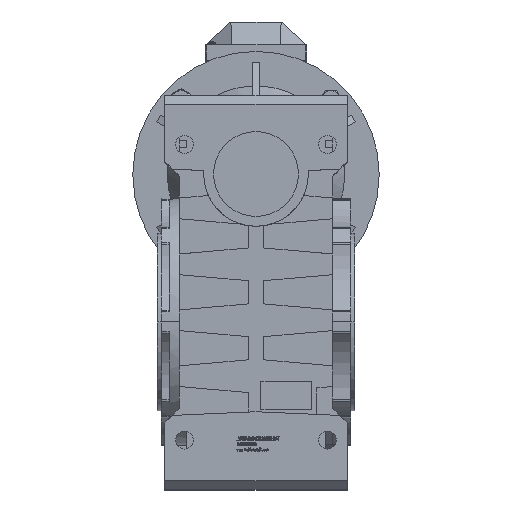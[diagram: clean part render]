
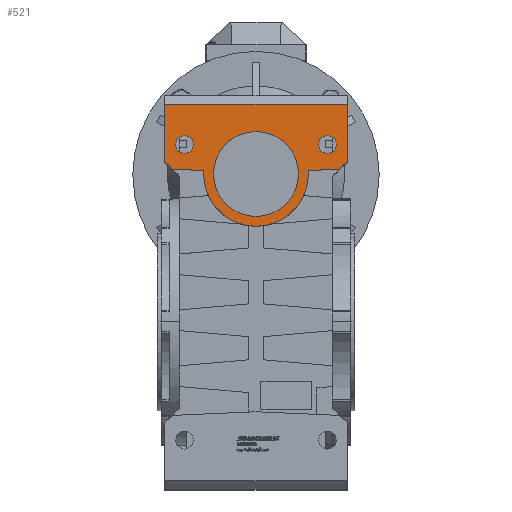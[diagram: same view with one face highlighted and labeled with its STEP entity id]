
A CAD part, top view. The second image highlights one B-rep face of the part: STEP entity #521.
In plain terms, the highlighted planar face has unit normal (0, 0, 1).
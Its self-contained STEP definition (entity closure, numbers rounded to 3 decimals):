
#521 = ADVANCED_FACE ( 'NONE', ( #59505, #26031, #42722, #83949 ), #50975, .F. ) ;
#1064 = EDGE_CURVE ( 'NONE', #92664, #33952, #99278, .T. ) ;
#1499 = AXIS2_PLACEMENT_3D ( 'NONE', #37712, #30501, #104569 ) ;
#1544 = EDGE_CURVE ( 'NONE', #99596, #20469, #72344, .T. ) ;
#2615 = CARTESIAN_POINT ( 'NONE',  ( -92.5, 221., 170. ) ) ;
#2667 = EDGE_CURVE ( 'NONE', #54644, #99596, #19347, .T. ) ;
#2876 = CARTESIAN_POINT ( 'NONE',  ( -92.5, 155.239, 170. ) ) ;
#3171 = VECTOR ( 'NONE', #86182, 1000. ) ;
#3913 = CARTESIAN_POINT ( 'NONE',  ( 84.762, 154.901, 170. ) ) ;
#11376 = CIRCLE ( 'NONE', #23633, 53.025 ) ;
#12421 = DIRECTION ( 'NONE',  ( 0., 0., 1. ) ) ;
#12766 = EDGE_LOOP ( 'NONE', ( #77522, #99753 ) ) ;
#12777 = DIRECTION ( 'NONE',  ( 1., 0., 0. ) ) ;
#14540 = DIRECTION ( 'NONE',  ( -0.999, -0.044, 0. ) ) ;
#14883 = CARTESIAN_POINT ( 'NONE',  ( 63.5, 180., 170. ) ) ;
#15360 = CARTESIAN_POINT ( 'NONE',  ( 53.025, 150., 170. ) ) ;
#17276 = ORIENTED_EDGE ( 'NONE', *, *, #103031, .F. ) ;
#17624 = LINE ( 'NONE', #91616, #84532 ) ;
#18011 = ORIENTED_EDGE ( 'NONE', *, *, #90529, .F. ) ;
#18642 = DIRECTION ( 'NONE',  ( 0., 0., -1. ) ) ;
#18690 = LINE ( 'NONE', #2876, #101008 ) ;
#18713 = DIRECTION ( 'NONE',  ( 1., 0., 0. ) ) ;
#19347 = CIRCLE ( 'NONE', #85736, 53.025 ) ;
#20469 = VERTEX_POINT ( 'NONE', #15360 ) ;
#22097 = EDGE_CURVE ( 'NONE', #98896, #50808, #86953, .T. ) ;
#23612 = CARTESIAN_POINT ( 'NONE',  ( -92.5, 230., 170. ) ) ;
#23625 = LINE ( 'NONE', #80121, #49404 ) ;
#23633 = AXIS2_PLACEMENT_3D ( 'NONE', #86211, #12421, #12777 ) ;
#24924 = ORIENTED_EDGE ( 'NONE', *, *, #1544, .T. ) ;
#25592 = ORIENTED_EDGE ( 'NONE', *, *, #73967, .T. ) ;
#25616 = DIRECTION ( 'NONE',  ( 0., 0., 1. ) ) ;
#25968 = DIRECTION ( 'NONE',  ( 1., 0., 0. ) ) ;
#26031 = FACE_OUTER_BOUND ( 'NONE', #83684, .T. ) ;
#26360 = ORIENTED_EDGE ( 'NONE', *, *, #102888, .F. ) ;
#27190 = VERTEX_POINT ( 'NONE', #60783 ) ;
#30501 = DIRECTION ( 'NONE',  ( 0., 0., 1. ) ) ;
#33304 = CARTESIAN_POINT ( 'NONE',  ( 92.5, 221., 170. ) ) ;
#33864 = AXIS2_PLACEMENT_3D ( 'NONE', #51109, #25616, #25968 ) ;
#33952 = VERTEX_POINT ( 'NONE', #94642 ) ;
#34676 = CARTESIAN_POINT ( 'NONE',  ( 92.5, 162.639, 170. ) ) ;
#35708 = AXIS2_PLACEMENT_3D ( 'NONE', #37059, #102855, #53942 ) ;
#36173 = DIRECTION ( 'NONE',  ( 1., 0., 0. ) ) ;
#37059 = CARTESIAN_POINT ( 'NONE',  ( 72.5, 180., 170. ) ) ;
#37475 = AXIS2_PLACEMENT_3D ( 'NONE', #98230, #73130, #48961 ) ;
#37712 = CARTESIAN_POINT ( 'NONE',  ( -72.5, 180., 170. ) ) ;
#38728 = VERTEX_POINT ( 'NONE', #14883 ) ;
#39341 = CARTESIAN_POINT ( 'NONE',  ( -92.5, 162.639, 170. ) ) ;
#39810 = CARTESIAN_POINT ( 'NONE',  ( 92.5, 162.639, 170. ) ) ;
#40127 = DIRECTION ( 'NONE',  ( 0., -1., 0. ) ) ;
#40257 = DIRECTION ( 'NONE',  ( 0., 0., 1. ) ) ;
#40541 = LINE ( 'NONE', #45832, #3171 ) ;
#42722 = FACE_BOUND ( 'NONE', #95761, .T. ) ;
#44088 = CARTESIAN_POINT ( 'NONE',  ( 72.5, 180., 170. ) ) ;
#44118 = ORIENTED_EDGE ( 'NONE', *, *, #71112, .F. ) ;
#45261 = ORIENTED_EDGE ( 'NONE', *, *, #95794, .T. ) ;
#45588 = CIRCLE ( 'NONE', #35708, 9. ) ;
#45706 = CARTESIAN_POINT ( 'NONE',  ( -84.762, 154.901, 170. ) ) ;
#45832 = CARTESIAN_POINT ( 'NONE',  ( -92.5, 162.639, 170. ) ) ;
#46464 = EDGE_CURVE ( 'NONE', #58409, #27190, #106174, .T. ) ;
#48166 = DIRECTION ( 'NONE',  ( 1., 0., 0. ) ) ;
#48961 = DIRECTION ( 'NONE',  ( 1., 0., 0. ) ) ;
#49404 = VECTOR ( 'NONE', #63161, 1000. ) ;
#49793 = EDGE_CURVE ( 'NONE', #52593, #79389, #103343, .T. ) ;
#50290 = DIRECTION ( 'NONE',  ( 0., 1., 0. ) ) ;
#50808 = VERTEX_POINT ( 'NONE', #39341 ) ;
#50975 = PLANE ( 'NONE',  #57370 ) ;
#51109 = CARTESIAN_POINT ( 'NONE',  ( 0., 150., 170. ) ) ;
#51568 = DIRECTION ( 'NONE',  ( -0.707, -0.707, 0. ) ) ;
#52358 = DIRECTION ( 'NONE',  ( 0., 0., 1. ) ) ;
#52593 = VERTEX_POINT ( 'NONE', #39810 ) ;
#53942 = DIRECTION ( 'NONE',  ( 1., 0., 0. ) ) ;
#54319 = AXIS2_PLACEMENT_3D ( 'NONE', #99532, #98120, #58237 ) ;
#54644 = VERTEX_POINT ( 'NONE', #106105 ) ;
#55760 = CARTESIAN_POINT ( 'NONE',  ( 0., 150., 170. ) ) ;
#56615 = CARTESIAN_POINT ( 'NONE',  ( 52.909, 153.51, 170. ) ) ;
#57370 = AXIS2_PLACEMENT_3D ( 'NONE', #67933, #18642, #50290 ) ;
#58237 = DIRECTION ( 'NONE',  ( 1., 0., 0. ) ) ;
#58409 = VERTEX_POINT ( 'NONE', #106113 ) ;
#58539 = CIRCLE ( 'NONE', #54319, 9. ) ;
#59505 = FACE_BOUND ( 'NONE', #12766, .T. ) ;
#60435 = CARTESIAN_POINT ( 'NONE',  ( 0., 150., 170. ) ) ;
#60751 = ORIENTED_EDGE ( 'NONE', *, *, #75056, .F. ) ;
#60783 = CARTESIAN_POINT ( 'NONE',  ( -63.5, 180., 170. ) ) ;
#62251 = AXIS2_PLACEMENT_3D ( 'NONE', #55760, #40257, #48166 ) ;
#63161 = DIRECTION ( 'NONE',  ( 0., -1., 0. ) ) ;
#66047 = EDGE_CURVE ( 'NONE', #79389, #101785, #97625, .T. ) ;
#66792 = DIRECTION ( 'NONE',  ( -1., 0., 0. ) ) ;
#66847 = ORIENTED_EDGE ( 'NONE', *, *, #66047, .F. ) ;
#67933 = CARTESIAN_POINT ( 'NONE',  ( 92.5, 230., 170. ) ) ;
#68515 = ORIENTED_EDGE ( 'NONE', *, *, #2667, .T. ) ;
#68752 = DIRECTION ( 'NONE',  ( 0., 0., 1. ) ) ;
#69067 = CARTESIAN_POINT ( 'NONE',  ( 92.5, 155.239, 170. ) ) ;
#69956 = VECTOR ( 'NONE', #51568, 1000. ) ;
#71112 = EDGE_CURVE ( 'NONE', #85424, #38728, #72094, .T. ) ;
#71390 = ORIENTED_EDGE ( 'NONE', *, *, #22097, .T. ) ;
#72094 = CIRCLE ( 'NONE', #87779, 9. ) ;
#72344 = CIRCLE ( 'NONE', #62251, 53.025 ) ;
#73130 = DIRECTION ( 'NONE',  ( 0., 0., 1. ) ) ;
#73967 = EDGE_CURVE ( 'NONE', #100743, #98896, #17624, .T. ) ;
#74117 = ORIENTED_EDGE ( 'NONE', *, *, #46464, .F. ) ;
#75056 = EDGE_CURVE ( 'NONE', #102089, #50808, #40541, .T. ) ;
#75828 = VECTOR ( 'NONE', #14540, 1000. ) ;
#77522 = ORIENTED_EDGE ( 'NONE', *, *, #83091, .F. ) ;
#79389 = VERTEX_POINT ( 'NONE', #3913 ) ;
#80121 = CARTESIAN_POINT ( 'NONE',  ( 92.5, 230., 170. ) ) ;
#83091 = EDGE_CURVE ( 'NONE', #33952, #92664, #88759, .T. ) ;
#83684 = EDGE_LOOP ( 'NONE', ( #68515, #24924, #45261, #66847, #97990, #18011, #25592, #71390, #60751, #85111 ) ) ;
#83949 = FACE_BOUND ( 'NONE', #92928, .T. ) ;
#84532 = VECTOR ( 'NONE', #66792, 1000. ) ;
#85111 = ORIENTED_EDGE ( 'NONE', *, *, #94375, .F. ) ;
#85424 = VERTEX_POINT ( 'NONE', #89194 ) ;
#85736 = AXIS2_PLACEMENT_3D ( 'NONE', #60435, #68752, #18713 ) ;
#86182 = DIRECTION ( 'NONE',  ( -0.707, 0.707, 0. ) ) ;
#86211 = CARTESIAN_POINT ( 'NONE',  ( 0., 150., 170. ) ) ;
#86953 = LINE ( 'NONE', #23612, #99800 ) ;
#87779 = AXIS2_PLACEMENT_3D ( 'NONE', #44088, #52358, #36173 ) ;
#88759 = CIRCLE ( 'NONE', #37475, 43.025 ) ;
#89194 = CARTESIAN_POINT ( 'NONE',  ( 81.5, 180., 170. ) ) ;
#90529 = EDGE_CURVE ( 'NONE', #100743, #52593, #23625, .T. ) ;
#91616 = CARTESIAN_POINT ( 'NONE',  ( 92.5, 221., 170. ) ) ;
#92664 = VERTEX_POINT ( 'NONE', #95973 ) ;
#92928 = EDGE_LOOP ( 'NONE', ( #26360, #44118 ) ) ;
#94375 = EDGE_CURVE ( 'NONE', #54644, #102089, #18690, .T. ) ;
#94642 = CARTESIAN_POINT ( 'NONE',  ( 43.025, 150., 170. ) ) ;
#95761 = EDGE_LOOP ( 'NONE', ( #74117, #17276 ) ) ;
#95794 = EDGE_CURVE ( 'NONE', #20469, #101785, #11376, .T. ) ;
#95973 = CARTESIAN_POINT ( 'NONE',  ( -43.025, 150., 170. ) ) ;
#97625 = LINE ( 'NONE', #69067, #75828 ) ;
#97990 = ORIENTED_EDGE ( 'NONE', *, *, #49793, .F. ) ;
#98120 = DIRECTION ( 'NONE',  ( 0., 0., 1. ) ) ;
#98230 = CARTESIAN_POINT ( 'NONE',  ( 0., 150., 170. ) ) ;
#98896 = VERTEX_POINT ( 'NONE', #2615 ) ;
#99177 = CARTESIAN_POINT ( 'NONE',  ( -53.025, 150., 170. ) ) ;
#99278 = CIRCLE ( 'NONE', #33864, 43.025 ) ;
#99532 = CARTESIAN_POINT ( 'NONE',  ( -72.5, 180., 170. ) ) ;
#99596 = VERTEX_POINT ( 'NONE', #99177 ) ;
#99753 = ORIENTED_EDGE ( 'NONE', *, *, #1064, .F. ) ;
#99800 = VECTOR ( 'NONE', #40127, 1000. ) ;
#100743 = VERTEX_POINT ( 'NONE', #33304 ) ;
#101008 = VECTOR ( 'NONE', #102495, 1000. ) ;
#101785 = VERTEX_POINT ( 'NONE', #56615 ) ;
#102089 = VERTEX_POINT ( 'NONE', #45706 ) ;
#102495 = DIRECTION ( 'NONE',  ( -0.999, 0.044, 0. ) ) ;
#102855 = DIRECTION ( 'NONE',  ( 0., 0., 1. ) ) ;
#102888 = EDGE_CURVE ( 'NONE', #38728, #85424, #45588, .T. ) ;
#103031 = EDGE_CURVE ( 'NONE', #27190, #58409, #58539, .T. ) ;
#103343 = LINE ( 'NONE', #34676, #69956 ) ;
#104569 = DIRECTION ( 'NONE',  ( 1., 0., 0. ) ) ;
#106105 = CARTESIAN_POINT ( 'NONE',  ( -52.909, 153.51, 170. ) ) ;
#106113 = CARTESIAN_POINT ( 'NONE',  ( -81.5, 180., 170. ) ) ;
#106174 = CIRCLE ( 'NONE', #1499, 9. ) ;
